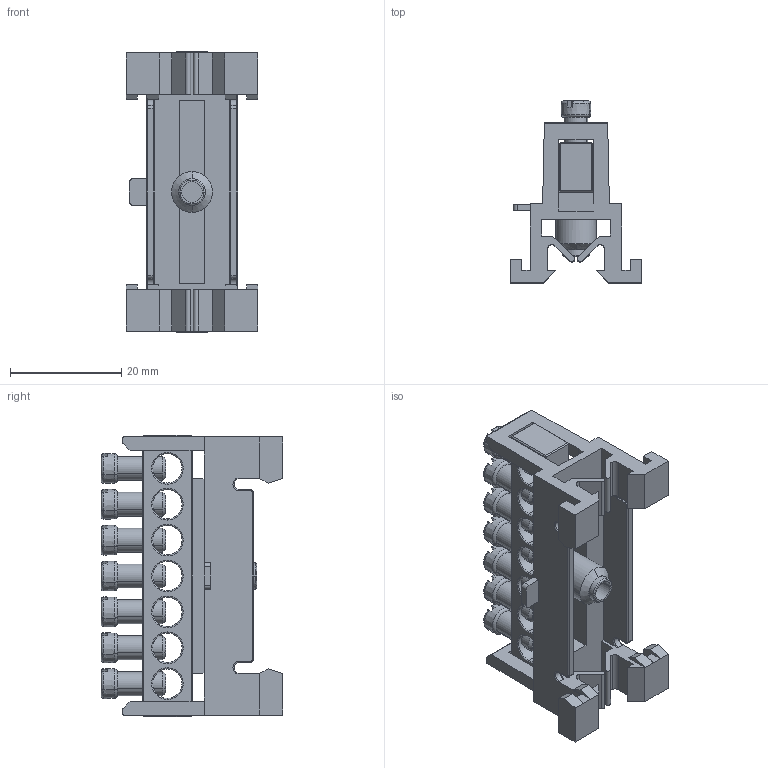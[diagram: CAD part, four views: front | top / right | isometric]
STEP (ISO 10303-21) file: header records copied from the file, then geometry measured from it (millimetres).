
FILE_DESCRIPTION (( 'STEP AP214' ), '1' );
FILE_NAME ('CS-N7.step', '2011-08-01T09:15:10', ( 'Radek Veselý' ), ( 'Siemens and Partners' ), 'SwSTEP 2.0', 'SolidWorks 2006303', '' );
FILE_SCHEMA (( 'AUTOMOTIVE_DESIGN' ));
Length unit declared in the file: millimetre
Products named in the file (1): CS-N7
Bounding box: 23.7 x 32.67 x 50.6 mm (x, y, z)
Volume: 7813.8 mm3; surface area: 9626 mm2
Topology: 9 solids, 9 shells, 561 faces, 1466 edges, 923 vertices
Faces by surface type: plane 314, cylinder 118, torus 85, cone 44
Entity records: 23980 total; most frequent: CARTESIAN_POINT 3923, ORIENTED_EDGE 2932, DIRECTION 2846, EDGE_CURVE 1466, AXIS2_PLACEMENT_3D 964, VERTEX_POINT 923, VECTOR 918, LINE 918
